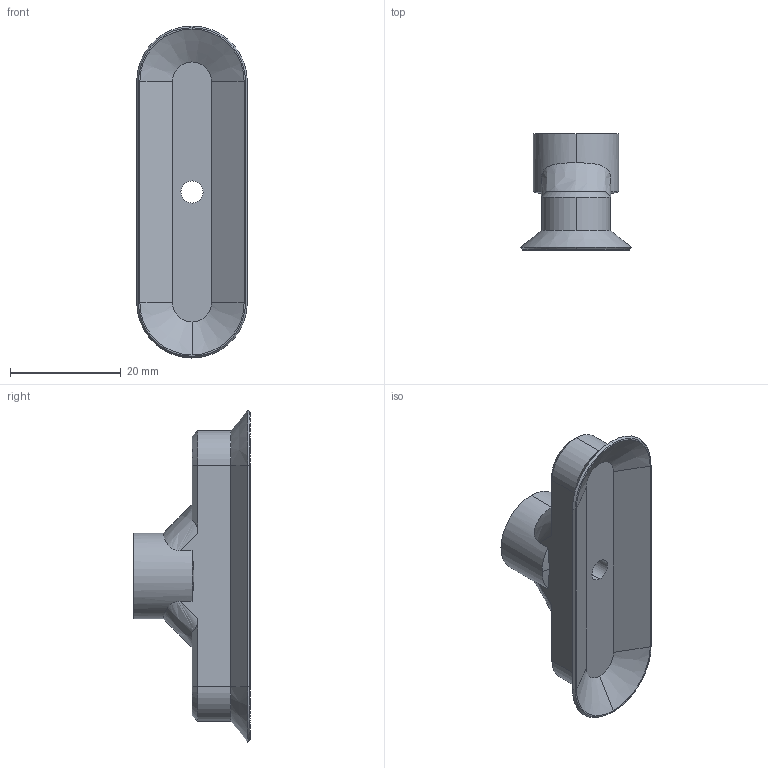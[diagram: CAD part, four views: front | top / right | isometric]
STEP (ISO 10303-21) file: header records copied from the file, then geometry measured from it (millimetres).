
FILE_DESCRIPTION (( 'STEP AP214' ), '1' );
FILE_NAME ('VS-PO2060.STEP', '2019-11-25T07:02:33', ( '微软用户' ), ( '微软中国' ), 'SwSTEP 2.0', 'SolidWorks 2016', '' );
FILE_SCHEMA (( 'AUTOMOTIVE_DESIGN' ));
Length unit declared in the file: millimetre
Products named in the file (1): VS-PO2060
Bounding box: 20 x 21 x 60 mm (x, y, z)
Volume: 6112.1 mm3; surface area: 4381.5 mm2
Topology: 1 solids, 1 shells, 59 faces, 135 edges, 83 vertices
Faces by surface type: plane 21, cylinder 19, cone 14, bspline 5
Entity records: 2519 total; most frequent: CARTESIAN_POINT 500, DIRECTION 289, ORIENTED_EDGE 270, EDGE_CURVE 135, AXIS2_PLACEMENT_3D 112, VERTEX_POINT 83, EDGE_LOOP 66, VECTOR 65
